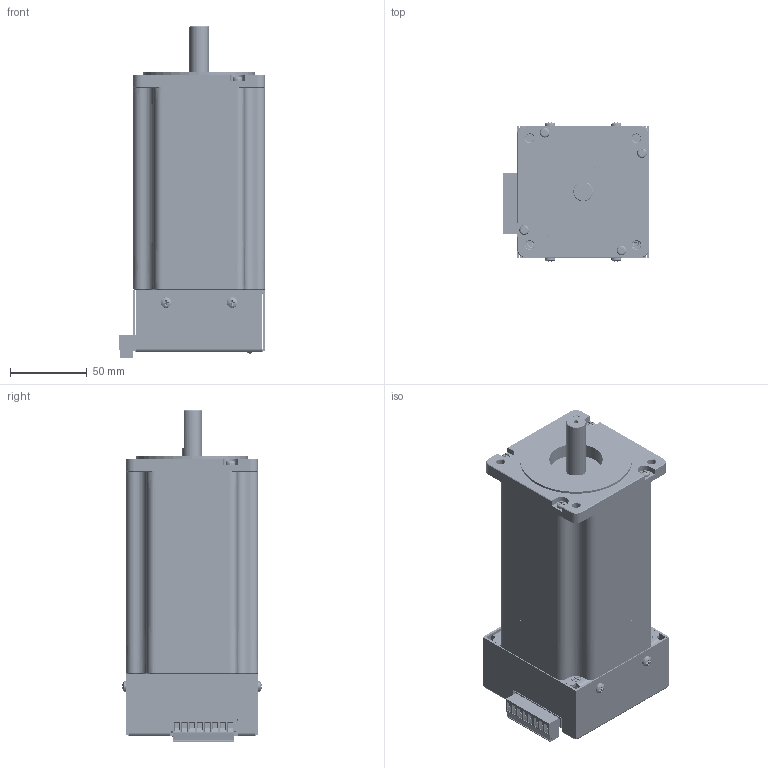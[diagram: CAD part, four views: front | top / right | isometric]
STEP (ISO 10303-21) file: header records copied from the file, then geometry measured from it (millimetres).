
FILE_DESCRIPTION (( 'STEP AP214' ), '1' );
FILE_NAME ('BLY34MDA4S.STEP', '2015-09-16T15:44:46', ( '' ), ( '' ), 'SwSTEP 2.0', 'SolidWorks 2015', '' );
FILE_SCHEMA (( 'AUTOMOTIVE_DESIGN' ));
Length unit declared in the file: inch
Products named in the file (26): BLY34MDA4S; Standoff, 6-32x.250_STD-6321.0H; 11pan cross head_ai_CR-PHMS 0.138-32x0.5x0.5-S; Heat Sink, MDC150, MDC151, MDC155-050301; Standoff, 6-32x.250, ROUND_6-32 x .250; LED-SPR5731_LED-SPR5731-RED; LED-SPR5731_LED-SPR5731-GRN; LED-LTM Series_LED-LTM150; RES-3W-.05; CON-B5B-EH-A; 1754562; 1757527; Cover, BLY34MDA Series; CAP-0223; SUB-AA5275A-1; AA5275APCB; 11pan cross head_ai_CR-PHMS 0.112-40x0.25x0.25-S; socket button head cap screw_ai_SBHCSCREW 0.138-32x0.375-HX-S; WSH-KE3049; flat head screw_ai_CR-FHMS 0.138-32x0.375x0.375-S; TRS-IRFB4710PBF; Base PLate, BLY34MDA Series; VRG-TL783CKC; BLY34MDAXS Series_BLY344D; TPE-661000751674-.75X2.00; 11pan cross head_ai_CR-PHMS 0.138-32x0.25x0.25-S
Assembly tree (59 placements, depth 3):
  BLY34MDA4S
    BLY34MDAXS Series_BLY344D
    Base PLate, BLY34MDA Series
    flat head screw_ai_CR-FHMS 0.138-32x0.375x0.375-S  x4
    socket button head cap screw_ai_SBHCSCREW 0.138-32x0.375-HX-S  x4
    SUB-AA5275A-1
      AA5275APCB
      CAP-0223  x2
      1757527
      CON-B5B-EH-A
      RES-3W-.05
      LED-LTM Series_LED-LTM150  x2
      LED-SPR5731_LED-SPR5731-GRN
      LED-SPR5731_LED-SPR5731-RED
      Standoff, 6-32x.250, ROUND_6-32 x .250  x2
      Heat Sink, MDC150, MDC151, MDC155-050301
      11pan cross head_ai_CR-PHMS 0.138-32x0.5x0.5-S  x2
      Standoff, 6-32x.250_STD-6321.0H  x2
      11pan cross head_ai_CR-PHMS 0.138-32x0.25x0.25-S  x2
      TPE-661000751674-.75X2.00  x2
      VRG-TL783CKC
      TRS-IRFB4710PBF  x6
      WSH-KE3049  x7
      11pan cross head_ai_CR-PHMS 0.112-40x0.25x0.25-S  x7
    Cover, BLY34MDA Series
    11pan cross head_ai_CR-PHMS 0.138-32x0.25x0.25-S  x4
    1754562
Bounding box: 95.36 x 91.01 x 216.33 mm (x, y, z)
Volume: 1022600.9 mm3; surface area: 162268 mm2
Topology: 58 solids, 58 shells, 5554 faces, 14000 edges, 8868 vertices
Faces by surface type: plane 2752, cylinder 1155, cone 1083, bspline 468, torus 56, sphere 40
Entity records: 173760 total; most frequent: CARTESIAN_POINT 44828, ORIENTED_EDGE 18418, DIRECTION 16538, EDGE_CURVE 9209, VECTOR 6212, LINE 6212, VERTEX_POINT 5889, AXIS2_PLACEMENT_3D 5163
